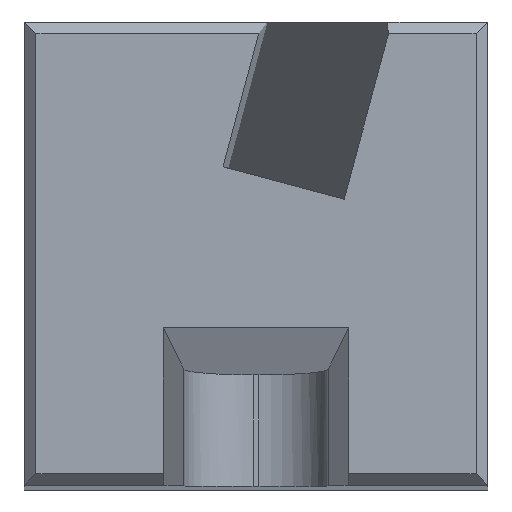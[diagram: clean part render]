
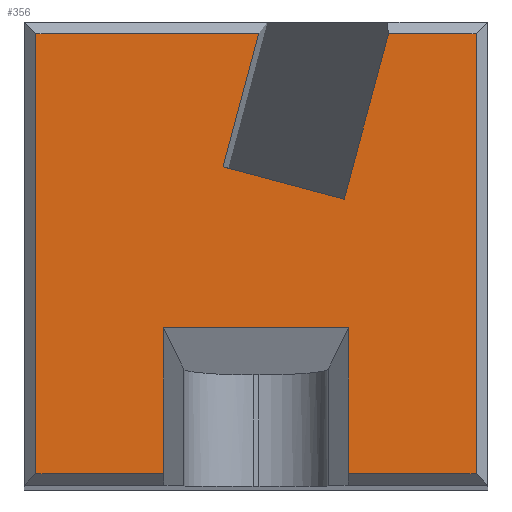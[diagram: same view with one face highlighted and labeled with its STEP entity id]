
A CAD part, top view. The second image highlights one B-rep face of the part: STEP entity #356.
In plain terms, the highlighted planar face has unit normal (0, 0, 1).
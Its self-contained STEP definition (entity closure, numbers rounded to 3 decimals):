
#4 = CARTESIAN_POINT ( 'NONE',  ( 6.903, 6.171, 60. ) ) ;
#12 = CARTESIAN_POINT ( 'NONE',  ( 0., 0.25, 60. ) ) ;
#39 = LINE ( 'NONE', #169, #298 ) ;
#54 = DIRECTION ( 'NONE',  ( 0.259, 0.966, 0. ) ) ;
#56 = DIRECTION ( 'NONE',  ( 0., 1., 0. ) ) ;
#58 = VERTEX_POINT ( 'NONE', #4 ) ;
#59 = DIRECTION ( 'NONE',  ( 0., 1., 0. ) ) ;
#66 = VERTEX_POINT ( 'NONE', #776 ) ;
#105 = VERTEX_POINT ( 'NONE', #599 ) ;
#106 = VECTOR ( 'NONE', #689, 1000. ) ;
#124 = VECTOR ( 'NONE', #532, 1000. ) ;
#126 = CARTESIAN_POINT ( 'NONE',  ( 3., 0., 60. ) ) ;
#163 = VERTEX_POINT ( 'NONE', #1002 ) ;
#168 = VERTEX_POINT ( 'NONE', #306 ) ;
#169 = CARTESIAN_POINT ( 'NONE',  ( 6.903, 6.171, 60. ) ) ;
#202 = LINE ( 'NONE', #508, #775 ) ;
#205 = PLANE ( 'NONE',  #869 ) ;
#212 = VECTOR ( 'NONE', #54, 1000. ) ;
#213 = EDGE_CURVE ( 'NONE', #163, #320, #682, .T. ) ;
#230 = DIRECTION ( 'NONE',  ( -1., 0., 0. ) ) ;
#238 = LINE ( 'NONE', #378, #482 ) ;
#248 = EDGE_LOOP ( 'NONE', ( #885, #998, #722, #708, #620, #898, #703, #858, #927, #410, #539, #865 ) ) ;
#255 = LINE ( 'NONE', #917, #467 ) ;
#269 = LINE ( 'NONE', #126, #540 ) ;
#287 = CARTESIAN_POINT ( 'NONE',  ( 0., 0., 60. ) ) ;
#298 = VECTOR ( 'NONE', #384, 1000. ) ;
#306 = CARTESIAN_POINT ( 'NONE',  ( 3., 3.4, 60. ) ) ;
#307 = VERTEX_POINT ( 'NONE', #764 ) ;
#308 = VERTEX_POINT ( 'NONE', #495 ) ;
#320 = VERTEX_POINT ( 'NONE', #346 ) ;
#332 = CARTESIAN_POINT ( 'NONE',  ( 0.25, 0.25, 60. ) ) ;
#334 = LINE ( 'NONE', #423, #212 ) ;
#346 = CARTESIAN_POINT ( 'NONE',  ( 9.75, 0.25, 60. ) ) ;
#351 = DIRECTION ( 'NONE',  ( 1., 0., 0. ) ) ;
#356 = ADVANCED_FACE ( 'NONE', ( #802 ), #205, .F. ) ;
#361 = EDGE_CURVE ( 'NONE', #58, #66, #435, .T. ) ;
#378 = CARTESIAN_POINT ( 'NONE',  ( 0., 9.75, 60. ) ) ;
#380 = DIRECTION ( 'NONE',  ( 1., 0., 0. ) ) ;
#384 = DIRECTION ( 'NONE',  ( 0.966, -0.259, 0. ) ) ;
#385 = EDGE_CURVE ( 'NONE', #105, #307, #334, .T. ) ;
#392 = LINE ( 'NONE', #785, #798 ) ;
#398 = VERTEX_POINT ( 'NONE', #852 ) ;
#399 = LINE ( 'NONE', #427, #554 ) ;
#410 = ORIENTED_EDGE ( 'NONE', *, *, #385, .T. ) ;
#416 = DIRECTION ( 'NONE',  ( 0., 0., -1. ) ) ;
#423 = CARTESIAN_POINT ( 'NONE',  ( 2.283, -0.612, 60. ) ) ;
#427 = CARTESIAN_POINT ( 'NONE',  ( 9.75, 0., 60. ) ) ;
#434 = CARTESIAN_POINT ( 'NONE',  ( 6.903, 6.171, 60. ) ) ;
#435 = LINE ( 'NONE', #434, #641 ) ;
#437 = LINE ( 'NONE', #853, #106 ) ;
#467 = VECTOR ( 'NONE', #699, 1000. ) ;
#476 = VERTEX_POINT ( 'NONE', #974 ) ;
#482 = VECTOR ( 'NONE', #230, 1000. ) ;
#495 = CARTESIAN_POINT ( 'NONE',  ( 0.25, 9.75, 60. ) ) ;
#508 = CARTESIAN_POINT ( 'NONE',  ( 3., 3.4, 60. ) ) ;
#510 = VERTEX_POINT ( 'NONE', #332 ) ;
#517 = DIRECTION ( 'NONE',  ( 0., -1., 0. ) ) ;
#532 = DIRECTION ( 'NONE',  ( 1., 0., 0. ) ) ;
#539 = ORIENTED_EDGE ( 'NONE', *, *, #765, .T. ) ;
#540 = VECTOR ( 'NONE', #59, 1000. ) ;
#554 = VECTOR ( 'NONE', #56, 1000. ) ;
#599 = CARTESIAN_POINT ( 'NONE',  ( 4.288, 6.872, 60. ) ) ;
#620 = ORIENTED_EDGE ( 'NONE', *, *, #213, .T. ) ;
#624 = CARTESIAN_POINT ( 'NONE',  ( 7., 3.4, 60. ) ) ;
#641 = VECTOR ( 'NONE', #988, 1000. ) ;
#655 = LINE ( 'NONE', #12, #124 ) ;
#682 = LINE ( 'NONE', #871, #895 ) ;
#689 = DIRECTION ( 'NONE',  ( -1., 0., 0. ) ) ;
#695 = EDGE_CURVE ( 'NONE', #168, #790, #202, .T. ) ;
#699 = DIRECTION ( 'NONE',  ( 0., -1., 0. ) ) ;
#703 = ORIENTED_EDGE ( 'NONE', *, *, #769, .T. ) ;
#708 = ORIENTED_EDGE ( 'NONE', *, *, #734, .T. ) ;
#720 = EDGE_CURVE ( 'NONE', #320, #398, #399, .T. ) ;
#722 = ORIENTED_EDGE ( 'NONE', *, *, #695, .T. ) ;
#734 = EDGE_CURVE ( 'NONE', #790, #163, #255, .T. ) ;
#764 = CARTESIAN_POINT ( 'NONE',  ( 5.059, 9.75, 60. ) ) ;
#765 = EDGE_CURVE ( 'NONE', #307, #308, #437, .T. ) ;
#769 = EDGE_CURVE ( 'NONE', #398, #66, #238, .T. ) ;
#775 = VECTOR ( 'NONE', #351, 1000. ) ;
#776 = CARTESIAN_POINT ( 'NONE',  ( 7.862, 9.75, 60. ) ) ;
#785 = CARTESIAN_POINT ( 'NONE',  ( 0.25, 0., 60. ) ) ;
#790 = VERTEX_POINT ( 'NONE', #624 ) ;
#798 = VECTOR ( 'NONE', #517, 1000. ) ;
#802 = FACE_OUTER_BOUND ( 'NONE', #248, .T. ) ;
#821 = EDGE_CURVE ( 'NONE', #510, #476, #655, .T. ) ;
#837 = EDGE_CURVE ( 'NONE', #308, #510, #392, .T. ) ;
#852 = CARTESIAN_POINT ( 'NONE',  ( 9.75, 9.75, 60. ) ) ;
#853 = CARTESIAN_POINT ( 'NONE',  ( 0., 9.75, 60. ) ) ;
#858 = ORIENTED_EDGE ( 'NONE', *, *, #361, .F. ) ;
#865 = ORIENTED_EDGE ( 'NONE', *, *, #837, .T. ) ;
#869 = AXIS2_PLACEMENT_3D ( 'NONE', #287, #416, #929 ) ;
#871 = CARTESIAN_POINT ( 'NONE',  ( 0., 0.25, 60. ) ) ;
#875 = EDGE_CURVE ( 'NONE', #105, #58, #39, .T. ) ;
#885 = ORIENTED_EDGE ( 'NONE', *, *, #821, .T. ) ;
#895 = VECTOR ( 'NONE', #380, 1000. ) ;
#898 = ORIENTED_EDGE ( 'NONE', *, *, #720, .T. ) ;
#917 = CARTESIAN_POINT ( 'NONE',  ( 7., 0., 60. ) ) ;
#927 = ORIENTED_EDGE ( 'NONE', *, *, #875, .F. ) ;
#929 = DIRECTION ( 'NONE',  ( -1., 0., 0. ) ) ;
#974 = CARTESIAN_POINT ( 'NONE',  ( 3., 0.25, 60. ) ) ;
#979 = EDGE_CURVE ( 'NONE', #476, #168, #269, .T. ) ;
#988 = DIRECTION ( 'NONE',  ( 0.259, 0.966, 0. ) ) ;
#998 = ORIENTED_EDGE ( 'NONE', *, *, #979, .T. ) ;
#1002 = CARTESIAN_POINT ( 'NONE',  ( 7., 0.25, 60. ) ) ;
